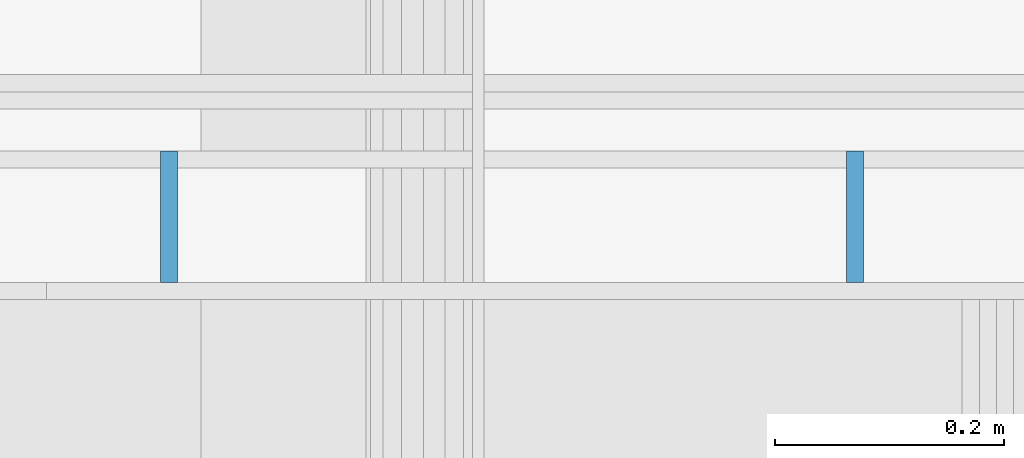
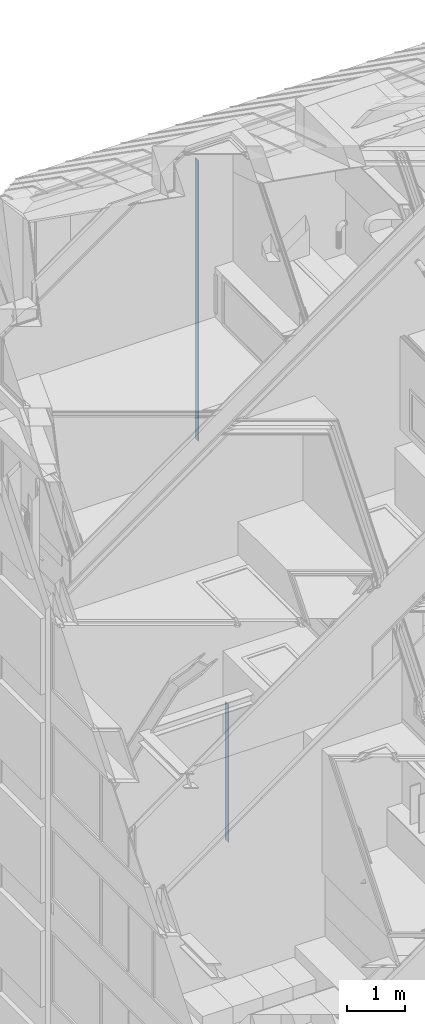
# One storey, part 278 of 583: 2 slabs.
"""IFC2X3 building model written with IfcOpenShell, lengths in metres."""

import ifcopenshell
import ifcopenshell.guid

model = None  # the IFC model being written
_history = None  # IfcOwnerHistory: only IFC2X3 demands one
_inside = {}  # id of a spatial element -> (the spatial element, [elements in it])
_under = {}  # id of a project, library or spatial element -> (it, [spatial elements below it])
_declared = {}  # id of a project -> (the project, [libraries it declares])
_typed = {}  # id of a type object -> (the type object, [elements of that type])
_made_of = {}  # id of a material, layer set ... -> (it, [elements and type objects made of it])


def new_model(schema):
    """Start an empty IFC model of exactly this schema.

    Asked for "IFC4X3", IfcOpenShell would pick the latest addendum, in which some entities
    have other attributes; the version numbers below select the first issue.
    IFC2X3 requires an IfcOwnerHistory on every rooted entity: one is made here for all.
    """
    global model, _history
    if schema == "IFC4X3":
        model = ifcopenshell.file(schema_version=(4, 3, 0, 0))
    else:
        model = ifcopenshell.file(schema=schema)
    _inside.clear()
    _under.clear()
    _declared.clear()
    _typed.clear()
    _made_of.clear()
    _history = None
    if model.schema == "IFC2X3":
        org = make("IfcOrganization", Name="unknown")
        user = make(
            "IfcPersonAndOrganization",
            ThePerson=make("IfcPerson", FamilyName="unknown"),
            TheOrganization=org,
        )
        app = make(
            "IfcApplication",
            ApplicationDeveloper=org,
            Version="unknown",
            ApplicationFullName="unknown",
            ApplicationIdentifier="unknown",
        )
        _history = make(
            "IfcOwnerHistory",
            OwningUser=user,
            OwningApplication=app,
            ChangeAction="ADDED",
            CreationDate=0,
        )
    return model


def make(cls, **values):
    """One entity of the class cls with the attributes given. An attribute that is None is left unset."""
    return model.create_entity(
        cls, **{name: value for name, value in values.items() if value is not None}
    )


def entity(cls, *values):
    """Any entity or typed value of the class cls, its attributes in the order of the schema. None: left unset."""
    e = model.create_entity(cls)
    for i, value in enumerate(values):
        if value is not None:
            e[i] = value
    return e


def rooted(cls, **values):
    """An entity with a GlobalId (a new one), such as an element, a storey or a relation."""
    return make(cls, GlobalId=ifcopenshell.guid.new(), OwnerHistory=_history, **values)


def si_unit(unit_type, name, prefix=None):
    """IfcSIUnit, for example si_unit("LENGTHUNIT", "METRE", prefix="MILLI")."""
    return make("IfcSIUnit", UnitType=unit_type, Prefix=prefix, Name=name)


def converted_unit(unit_type, name, factor, base, dimensions=None, offset=None):
    """IfcConversionBasedUnit, such as the inch: factor (a typed value) times the base unit."""
    return make(
        "IfcConversionBasedUnit"
        if offset is None
        else "IfcConversionBasedUnitWithOffset",
        ConversionOffset=offset,
        Dimensions=None
        if dimensions is None
        else entity("IfcDimensionalExponents", *dimensions),
        UnitType=unit_type,
        Name=name,
        ConversionFactor=make(
            "IfcMeasureWithUnit", ValueComponent=factor, UnitComponent=base
        ),
    )


def derived_unit(unit_type, elements):
    """IfcDerivedUnit: a product of units, each with its exponent."""
    return make(
        "IfcDerivedUnit",
        Elements=[
            make("IfcDerivedUnitElement", Unit=unit, Exponent=power)
            for unit, power in elements
        ],
        UnitType=unit_type,
    )


def money_unit(currency):
    """IfcMonetaryUnit."""
    return make("IfcMonetaryUnit", Currency=currency)


def assignment(units):
    """IfcUnitAssignment: the units of a project."""
    return None if units is None else make("IfcUnitAssignment", Units=units)


def point(xyz):
    """IfcCartesianPoint."""
    return None if xyz is None else make("IfcCartesianPoint", Coordinates=xyz)


def direction(xyz):
    """IfcDirection."""
    return None if xyz is None else make("IfcDirection", DirectionRatios=xyz)


def frame(location, z_axis=None, x_axis=None):
    """IfcAxis2Placement3D, a coordinate frame: its origin and axes. An axis left out is left unset."""
    return make(
        "IfcAxis2Placement3D",
        Location=point(location),
        Axis=direction(z_axis),
        RefDirection=direction(x_axis),
    )


def origin_with_axes():
    """The frame at (0, 0, 0) with the z axis (0, 0, 1) and the x axis (1, 0, 0) written out."""
    return frame((0.0, 0.0, 0.0), z_axis=(0.0, 0.0, 1.0), x_axis=(1.0, 0.0, 0.0))


def place(relative_to, where):
    """IfcLocalPlacement: puts the frame where relative to a parent placement (None: the world)."""
    return make(
        "IfcLocalPlacement", PlacementRelTo=relative_to, RelativePlacement=where
    )


def context(
    kind, dimensions, precision=None, world=None, true_north=None, identifier=None
):
    """IfcGeometricRepresentationContext, for example the 3D "Model" context."""
    return make(
        "IfcGeometricRepresentationContext",
        ContextIdentifier=identifier,
        ContextType=kind,
        CoordinateSpaceDimension=dimensions,
        Precision=precision,
        WorldCoordinateSystem=world,
        TrueNorth=true_north,
    )


def subcontext(parent, identifier, kind, view, scale=None):
    """IfcGeometricRepresentationSubContext, for example "Body" below "Model"."""
    return make(
        "IfcGeometricRepresentationSubContext",
        ContextIdentifier=identifier,
        ContextType=kind,
        ParentContext=parent,
        TargetScale=scale,
        TargetView=view,
    )


def project(units=None, contexts=None):
    """IfcProject with its units and contexts."""
    return rooted(
        "IfcProject",
        Name="project",
        RepresentationContexts=contexts,
        UnitsInContext=assignment(units),
    )


def spatial(cls, under=None, at=None, **own):
    """A site, building, storey or space (cls), placed at a placement, below another one or the project."""
    s = rooted(cls, ObjectPlacement=at, **own)
    if under is not None:
        _under.setdefault(under.id(), (under, []))[1].append(s)
    return s


def faces_of(points, faces, orient=None, outer=None):
    """IfcFace entities. A face is a list of loops; a loop is a list of indices into points, from 0.

    orient and outer hold one flag for each loop. By default every Orientation is true, the
    first loop of a face is its IfcFaceOuterBound and the others are IfcFaceBound.
    """
    made = []
    for i, loops in enumerate(faces):
        bounds = []
        for j, loop in enumerate(loops):
            is_outer = j == 0 if outer is None else outer[i][j]
            bounds.append(
                make(
                    "IfcFaceOuterBound" if is_outer else "IfcFaceBound",
                    Bound=make("IfcPolyLoop", Polygon=[points[k] for k in loop]),
                    Orientation=True if orient is None else orient[i][j],
                )
            )
        made.append(make("IfcFace", Bounds=bounds))
    return made


def faceted_brep(points, faces, orient=None, outer=None, voids=None):
    """IfcFacetedBrep: a solid bounded by flat faces; with voids (closed shells), ...WithVoids."""
    shared = [point(p) for p in points]
    hull = make("IfcClosedShell", CfsFaces=faces_of(shared, faces, orient, outer))
    if voids is None:
        return make("IfcFacetedBrep", Outer=hull)
    return make(
        "IfcFacetedBrepWithVoids",
        Outer=hull,
        Voids=[
            make(cls, CfsFaces=faces_of(shared, fs, o, b)) for cls, fs, o, b in voids
        ],
    )


def shape(context_of_items, identifier, shape_type, items):
    """IfcShapeRepresentation: the items that make up one representation, for example the "Body"."""
    return make(
        "IfcShapeRepresentation",
        ContextOfItems=context_of_items,
        RepresentationIdentifier=identifier,
        RepresentationType=shape_type,
        Items=items,
    )


def material(Name=None, Category=None):
    """IfcMaterial."""
    return make("IfcMaterial", Name=Name, Category=Category)


def made_of(thing, what):
    """Note that an element or type object is made of a material, layer set ...; save() writes the relation."""
    if what is not None:
        _made_of.setdefault(what.id(), (what, []))[1].append(thing)
    return thing


def type_object(cls, material=None, **own):
    """A type object (cls), such as IfcWallType, which elements share."""
    return made_of(rooted(cls, **own), material)


def element(
    cls,
    number,
    at=None,
    inside=None,
    cuts=None,
    type_object=None,
    material=None,
    context=None,
    identifier="Body",
    shape_type=None,
    held_by="IfcProductDefinitionShape",
    body=None,
    shapes=None,
    **own,
):
    """One element of the class cls, such as IfcWall. Its Tag is "e" and its number.

    at: its placement. inside: the storey or other place that contains it. cuts: it is an
    opening in that element (IfcRelVoidsElement). A single representation is given by context,
    identifier, shape_type and body (its items); several are given by shapes. held_by: the class
    of the entity that holds the representations. save() writes the other relations.
    """
    e = rooted(cls, Tag="e%d" % number, ObjectPlacement=at, **own)
    if body is not None:
        shapes = [shape(context, identifier, shape_type, body)]
    if shapes is not None:
        e.Representation = make(held_by, Representations=shapes)
    if inside is not None:
        _inside.setdefault(inside.id(), (inside, []))[1].append(e)
    if cuts is not None:
        rooted(
            "IfcRelVoidsElement", RelatingBuildingElement=cuts, RelatedOpeningElement=e
        )
    if type_object is not None:
        _typed.setdefault(type_object.id(), (type_object, []))[1].append(e)
    return made_of(e, material)


def aggregate(whole, parts):
    """IfcRelAggregates: a whole, such as a stair, and the parts it consists of."""
    return rooted("IfcRelAggregates", RelatingObject=whole, RelatedObjects=parts)


def save(model, path):
    """Write the relations noted so far, then the file.

    IfcRelAggregates (storeys below a building ...), IfcRelContainedInSpatialStructure (elements
    in a storey), IfcRelDefinesByType, IfcRelAssociatesMaterial and IfcRelDeclares: one each for
    every whole, place, type object, material and project.
    """
    for whole, parts in _under.values():
        aggregate(whole, parts)
    for where, things in _inside.values():
        rooted(
            "IfcRelContainedInSpatialStructure",
            RelatedElements=things,
            RelatingStructure=where,
        )
    for kind, things in _typed.values():
        rooted("IfcRelDefinesByType", RelatedObjects=things, RelatingType=kind)
    for what, things in _made_of.values():
        rooted("IfcRelAssociatesMaterial", RelatedObjects=things, RelatingMaterial=what)
    for by, libraries in _declared.values():
        rooted("IfcRelDeclares", RelatingContext=by, RelatedDefinitions=libraries)
    model.write(path)


model = new_model("IFC2X3")

# Units and contexts
model_context = context("Model", 3, precision=1e-05, world=origin_with_axes(), true_north=direction((0.0, 1.0)))
body_context = subcontext(model_context, "Body", "Model", "MODEL_VIEW", scale=1.0)
ifc_project = project(units=[si_unit("LENGTHUNIT", "METRE"), si_unit("AREAUNIT", "SQUARE_METRE"), si_unit("VOLUMEUNIT", "CUBIC_METRE"), si_unit("ABSORBEDDOSEUNIT", "GRAY"), si_unit("AMOUNTOFSUBSTANCEUNIT", "MOLE"), si_unit("DOSEEQUIVALENTUNIT", "SIEVERT"), si_unit("ELECTRICCAPACITANCEUNIT", "FARAD"), si_unit("ELECTRICCHARGEUNIT", "COULOMB"), si_unit("ELECTRICCONDUCTANCEUNIT", "SIEMENS"), si_unit("ELECTRICCURRENTUNIT", "AMPERE"), si_unit("ELECTRICRESISTANCEUNIT", "OHM"), si_unit("ELECTRICVOLTAGEUNIT", "VOLT"), si_unit("ENERGYUNIT", "JOULE"), si_unit("FORCEUNIT", "NEWTON"), si_unit("FREQUENCYUNIT", "HERTZ"), si_unit("ILLUMINANCEUNIT", "LUX"), si_unit("INDUCTANCEUNIT", "HENRY"), si_unit("LUMINOUSFLUXUNIT", "LUMEN"), si_unit("LUMINOUSINTENSITYUNIT", "CANDELA"), si_unit("MAGNETICFLUXDENSITYUNIT", "TESLA"), si_unit("MAGNETICFLUXUNIT", "WEBER"), si_unit("MASSUNIT", "GRAM"), converted_unit("PLANEANGLEUNIT", "degree", entity("IfcReal", 0.0174532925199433), si_unit("PLANEANGLEUNIT", "RADIAN"), dimensions=[0, 0, 0, 0, 0, 0, 0]), si_unit("POWERUNIT", "WATT"), si_unit("PRESSUREUNIT", "PASCAL"), si_unit("RADIOACTIVITYUNIT", "BECQUEREL"), si_unit("SOLIDANGLEUNIT", "STERADIAN"), si_unit("THERMODYNAMICTEMPERATUREUNIT", "KELVIN"), si_unit("TIMEUNIT", "SECOND"), derived_unit("ACCELERATIONUNIT", [(si_unit("LENGTHUNIT", "METRE"), 1), (si_unit("TIMEUNIT", "SECOND"), -2)]), derived_unit("ANGULARVELOCITYUNIT", [(converted_unit("PLANEANGLEUNIT", "degree", entity("IfcReal", 0.0174532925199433), si_unit("PLANEANGLEUNIT", "RADIAN"), dimensions=[0, 0, 0, 0, 0, 0, 0]), 1), (si_unit("TIMEUNIT", "SECOND"), -1)]), derived_unit("CURVATUREUNIT", [(converted_unit("PLANEANGLEUNIT", "degree", entity("IfcReal", 0.0174532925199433), si_unit("PLANEANGLEUNIT", "RADIAN"), dimensions=[0, 0, 0, 0, 0, 0, 0]), 1), (si_unit("LENGTHUNIT", "METRE"), -1)]), derived_unit("DYNAMICVISCOSITYUNIT", [(si_unit("PRESSUREUNIT", "PASCAL"), 1), (si_unit("TIMEUNIT", "SECOND"), 1)]), derived_unit("HEATFLUXDENSITYUNIT", [(si_unit("POWERUNIT", "WATT"), 1), (si_unit("LENGTHUNIT", "METRE"), -2)]), derived_unit("HEATINGVALUEUNIT", [(si_unit("ENERGYUNIT", "JOULE"), 1), (si_unit("MASSUNIT", "GRAM"), -1)]), derived_unit("INTEGERCOUNTRATEUNIT", [(si_unit("TIMEUNIT", "SECOND"), -1)]), derived_unit("IONCONCENTRATIONUNIT", [(si_unit("MASSUNIT", "GRAM"), 1), (si_unit("VOLUMEUNIT", "CUBIC_METRE"), -1)]), derived_unit("ISOTHERMALMOISTURECAPACITYUNIT", [(si_unit("VOLUMEUNIT", "CUBIC_METRE"), 1), (si_unit("MASSUNIT", "GRAM"), -1)]), derived_unit("KINEMATICVISCOSITYUNIT", [(si_unit("AREAUNIT", "SQUARE_METRE"), 1), (si_unit("TIMEUNIT", "SECOND"), -1)]), derived_unit("LINEARFORCEUNIT", [(si_unit("FORCEUNIT", "NEWTON"), 1), (si_unit("LENGTHUNIT", "METRE"), -1)]), derived_unit("LINEARMOMENTUNIT", [(si_unit("FORCEUNIT", "NEWTON"), 1), (si_unit("LENGTHUNIT", "METRE"), -1)]), derived_unit("LINEARSTIFFNESSUNIT", [(si_unit("FORCEUNIT", "NEWTON"), 1), (si_unit("LENGTHUNIT", "METRE"), -1)]), derived_unit("LINEARVELOCITYUNIT", [(si_unit("LENGTHUNIT", "METRE"), 1), (si_unit("TIMEUNIT", "SECOND"), -1)]), derived_unit("LUMINOUSINTENSITYDISTRIBUTIONUNIT", [(si_unit("LUMINOUSINTENSITYUNIT", "CANDELA"), 1), (si_unit("LUMINOUSFLUXUNIT", "LUMEN"), -1)]), derived_unit("MASSDENSITYUNIT", [(si_unit("MASSUNIT", "GRAM"), 1), (si_unit("VOLUMEUNIT", "CUBIC_METRE"), -1)]), derived_unit("MASSFLOWRATEUNIT", [(si_unit("MASSUNIT", "GRAM"), 1), (si_unit("TIMEUNIT", "SECOND"), -1)]), derived_unit("MASSPERLENGTHUNIT", [(si_unit("MASSUNIT", "GRAM"), 1), (si_unit("LENGTHUNIT", "METRE"), -1)]), derived_unit("MODULUSOFELASTICITYUNIT", [(si_unit("FORCEUNIT", "NEWTON"), 1), (si_unit("AREAUNIT", "SQUARE_METRE"), -1)]), derived_unit("MODULUSOFLINEARSUBGRADEREACTIONUNIT", [(si_unit("FORCEUNIT", "NEWTON"), 1), (si_unit("LENGTHUNIT", "METRE"), -2)]), derived_unit("MODULUSOFROTATIONALSUBGRADEREACTIONUNIT", [(si_unit("FORCEUNIT", "NEWTON"), 1), (si_unit("LENGTHUNIT", "METRE"), 1)]), derived_unit("MODULUSOFSUBGRADEREACTIONUNIT", [(si_unit("FORCEUNIT", "NEWTON"), 1), (si_unit("VOLUMEUNIT", "CUBIC_METRE"), -1)]), derived_unit("MOISTUREDIFFUSIVITYUNIT", [(si_unit("VOLUMEUNIT", "CUBIC_METRE"), 1), (si_unit("TIMEUNIT", "SECOND"), -1)]), derived_unit("MOLECULARWEIGHTUNIT", [(si_unit("MASSUNIT", "GRAM"), 1), (si_unit("AMOUNTOFSUBSTANCEUNIT", "MOLE"), -1)]), derived_unit("PLANARFORCEUNIT", [(si_unit("FORCEUNIT", "NEWTON"), 1), (si_unit("LENGTHUNIT", "METRE"), -2)]), derived_unit("ROTATIONALFREQUENCYUNIT", [(si_unit("TIMEUNIT", "SECOND"), -1)]), derived_unit("ROTATIONALMASSUNIT", [(si_unit("MASSUNIT", "GRAM"), 1), (si_unit("LENGTHUNIT", "METRE"), 2)]), derived_unit("ROTATIONALSTIFFNESSUNIT", [(si_unit("FORCEUNIT", "NEWTON"), 1), (si_unit("LENGTHUNIT", "METRE"), 1), (converted_unit("PLANEANGLEUNIT", "degree", entity("IfcReal", 0.0174532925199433), si_unit("PLANEANGLEUNIT", "RADIAN"), dimensions=[0, 0, 0, 0, 0, 0, 0]), -1)]), derived_unit("SECTIONAREAINTEGRALUNIT", [(si_unit("LENGTHUNIT", "METRE"), 5)]), derived_unit("SECTIONMODULUSUNIT", [(si_unit("LENGTHUNIT", "METRE"), 3)]), derived_unit("SHEARMODULUSUNIT", [(si_unit("FORCEUNIT", "NEWTON"), 1), (si_unit("AREAUNIT", "SQUARE_METRE"), -1)]), derived_unit("SOUNDPOWERUNIT", [(si_unit("ENERGYUNIT", "JOULE"), 1), (si_unit("TIMEUNIT", "SECOND"), -1)]), derived_unit("SPECIFICHEATCAPACITYUNIT", [(si_unit("FORCEUNIT", "NEWTON"), 1), (si_unit("MASSUNIT", "GRAM"), -1), (si_unit("THERMODYNAMICTEMPERATUREUNIT", "KELVIN"), -1)]), derived_unit("TEMPERATUREGRADIENTUNIT", [(si_unit("THERMODYNAMICTEMPERATUREUNIT", "KELVIN"), 1), (si_unit("LENGTHUNIT", "METRE"), -1)]), derived_unit("THERMALADMITTANCEUNIT", [(si_unit("POWERUNIT", "WATT"), 1), (si_unit("AREAUNIT", "SQUARE_METRE"), -1), (si_unit("THERMODYNAMICTEMPERATUREUNIT", "KELVIN"), -1)]), derived_unit("THERMALCONDUCTANCEUNIT", [(si_unit("POWERUNIT", "WATT"), 1), (si_unit("LENGTHUNIT", "METRE"), -1), (si_unit("THERMODYNAMICTEMPERATUREUNIT", "KELVIN"), -1)]), derived_unit("THERMALEXPANSIONCOEFFICIENTUNIT", [(si_unit("THERMODYNAMICTEMPERATUREUNIT", "KELVIN"), -1)]), derived_unit("THERMALRESISTANCEUNIT", [(si_unit("AREAUNIT", "SQUARE_METRE"), 1), (si_unit("POWERUNIT", "WATT"), -1)]), derived_unit("THERMALTRANSMITTANCEUNIT", [(si_unit("POWERUNIT", "WATT"), 1), (si_unit("AREAUNIT", "SQUARE_METRE"), -1), (si_unit("THERMODYNAMICTEMPERATUREUNIT", "KELVIN"), -1)]), derived_unit("TORQUEUNIT", [(si_unit("FORCEUNIT", "NEWTON"), 1), (si_unit("LENGTHUNIT", "METRE"), 1)]), derived_unit("VAPORPERMEABILITYUNIT", [(si_unit("MASSUNIT", "GRAM"), 1), (si_unit("TIMEUNIT", "SECOND"), -1)]), derived_unit("VOLUMETRICFLOWRATEUNIT", [(si_unit("VOLUMEUNIT", "CUBIC_METRE"), 1), (si_unit("TIMEUNIT", "SECOND"), -1)]), derived_unit("WARPINGCONSTANTUNIT", [(si_unit("LENGTHUNIT", "METRE"), 6)]), derived_unit("WARPINGMOMENTUNIT", [(si_unit("FORCEUNIT", "NEWTON"), 1), (si_unit("LENGTHUNIT", "METRE"), 2)]), money_unit("GBP")], contexts=[model_context])

# Site, building, storey
site_placement = place(None, origin_with_axes())
site = spatial("IfcSite", under=ifc_project, at=site_placement, Name="Site", CompositionType="ELEMENT")
building_placement = place(site_placement, origin_with_axes())
building = spatial("IfcBuilding", under=site, at=building_placement, Name="Building01", CompositionType="ELEMENT")
storey_placement = place(building_placement, frame((0.0, 0.0, 20.78), z_axis=(0.0, 0.0, 1.0), x_axis=(1.0, 0.0, 0.0)))
storey = spatial("IfcBuildingStorey", under=building, at=storey_placement, Name="RL", CompositionType="ELEMENT", Elevation=20.78)

# Slabs
ifc_material = material(Name="A_BSUK_CeilingSoffitFinishes_Suspended")
slab_type = type_object("IfcSlabType", Name="A-FloorsSlabs A_BSUK_Slabs", PredefinedType="FLOOR")
placement = place(storey_placement, frame((0.0, 0.0, -20.78), z_axis=(0.0, 0.0, 1.0), x_axis=(1.0, 0.0, 0.0)))
element("IfcSlab", 1, at=placement, inside=storey, type_object=slab_type, material=ifc_material, Name="A-FloorsSlabs A_BSUK_Slabs", ObjectType="CompoundSlabLeaf", context=body_context, shape_type="Brep", body=[
    faceted_brep([(6.0884, 20.195, 23.9), (6.1034, 20.195, 23.9), (6.1034, 20.31, 23.9), (6.0884, 20.31, 23.9), (6.0884, 20.195, 18.0), (6.1034, 20.195, 18.0), (6.0884, 20.31, 18.0), (6.1034, 20.31, 18.0)], [[[0, 1, 2, 3]], [[4, 5, 1, 0]], [[6, 7, 5, 4]], [[3, 2, 7, 6]], [[1, 5, 7, 2]], [[3, 6, 4, 0]]]),
])
element("IfcSlab", 2, at=placement, inside=storey, type_object=slab_type, material=ifc_material, Name="A-FloorsSlabs A_BSUK_Slabs", ObjectType="CompoundSlabLeaf", context=body_context, shape_type="Brep", body=[
    faceted_brep([(6.6884, 20.195, 12.25), (6.7034, 20.195, 12.25), (6.7034, 20.31, 12.25), (6.6884, 20.31, 12.25), (6.6884, 20.195, 9.35), (6.7034, 20.195, 9.35), (6.6884, 20.31, 9.35), (6.7034, 20.31, 9.35)], [[[0, 1, 2, 3]], [[4, 5, 1, 0]], [[6, 7, 5, 4]], [[3, 2, 7, 6]], [[1, 5, 7, 2]], [[3, 6, 4, 0]]]),
])

save(model, "model.ifc")
